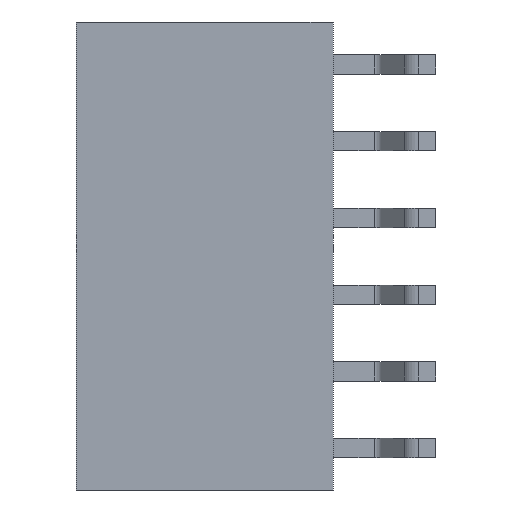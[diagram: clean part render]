
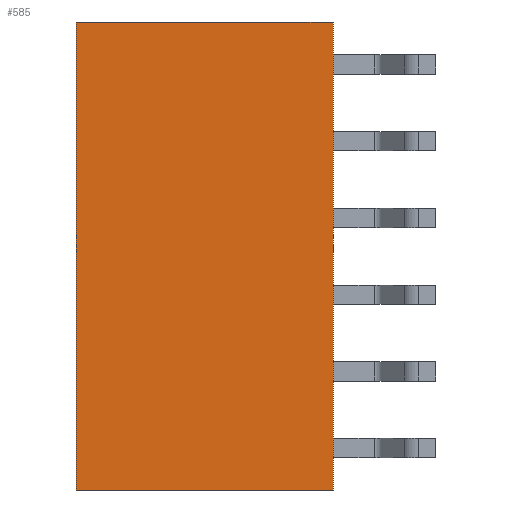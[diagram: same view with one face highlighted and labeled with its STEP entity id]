
A CAD part, left-side view. The second image highlights one B-rep face of the part: STEP entity #585.
In plain terms, the highlighted planar face has unit normal (-1, 0, 0).
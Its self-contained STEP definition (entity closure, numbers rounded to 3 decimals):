
#585=ADVANCED_FACE('',(#1041),#1042,.F.);
#1041=FACE_OUTER_BOUND('',#2214,.T.);
#1042=PLANE('',#2215);
#2214=EDGE_LOOP('',(#2961,#2962,#2963,#2964));
#2215=AXIS2_PLACEMENT_3D('',#2965,#2966,#2967);
#2961=ORIENTED_EDGE('',*,*,#5224,.F.);
#2962=ORIENTED_EDGE('',*,*,#5225,.F.);
#2963=ORIENTED_EDGE('',*,*,#5226,.F.);
#2964=ORIENTED_EDGE('',*,*,#5227,.F.);
#2965=CARTESIAN_POINT('',(0.0,0.0,0.0));
#2966=DIRECTION('',(1.0,0.0,0.0));
#2967=DIRECTION('',(0.0,1.0,0.0));
#5224=EDGE_CURVE('',#6412,#6413,#6414,.T.);
#5225=EDGE_CURVE('',#6415,#6412,#6416,.T.);
#5226=EDGE_CURVE('',#6417,#6415,#6418,.T.);
#5227=EDGE_CURVE('',#6413,#6417,#6419,.T.);
#6412=VERTEX_POINT('',#7676);
#6413=VERTEX_POINT('',#7677);
#6414=LINE('',#7678,#7679);
#6415=VERTEX_POINT('',#7680);
#6416=LINE('',#7681,#7682);
#6417=VERTEX_POINT('',#7683);
#6418=LINE('',#7684,#7685);
#6419=LINE('',#7686,#7687);
#7676=CARTESIAN_POINT('',(0.0,4.25,-7.745));
#7677=CARTESIAN_POINT('',(0.0,4.25,7.745));
#7678=CARTESIAN_POINT('',(0.0,4.25,-7.745));
#7679=VECTOR('',#9120,15.49);
#7680=CARTESIAN_POINT('',(0.0,-4.25,-7.745));
#7681=CARTESIAN_POINT('',(0.0,-4.25,-7.745));
#7682=VECTOR('',#9121,8.5);
#7683=CARTESIAN_POINT('',(0.0,-4.25,7.745));
#7684=CARTESIAN_POINT('',(0.0,-4.25,7.745));
#7685=VECTOR('',#9122,15.49);
#7686=CARTESIAN_POINT('',(0.0,4.25,7.745));
#7687=VECTOR('',#9123,8.5);
#9120=DIRECTION('',(0.0,0.0,1.0));
#9121=DIRECTION('',(0.0,1.0,0.0));
#9122=DIRECTION('',(0.0,0.0,-1.0));
#9123=DIRECTION('',(0.0,-1.0,0.0));
